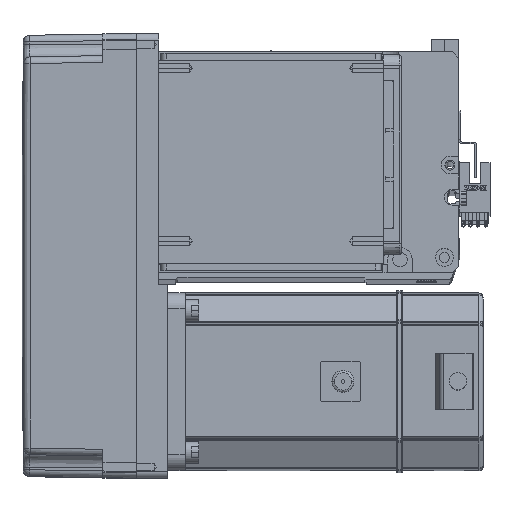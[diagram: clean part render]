
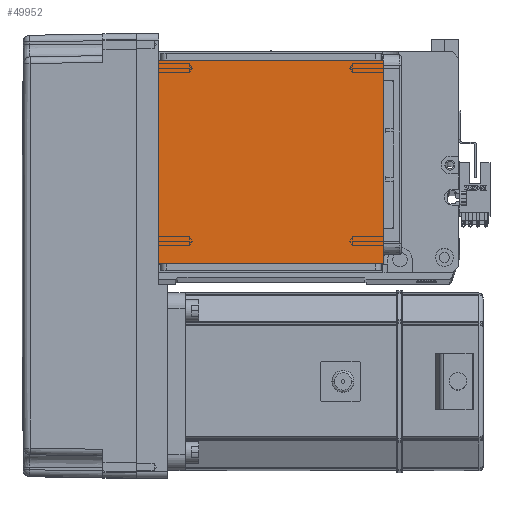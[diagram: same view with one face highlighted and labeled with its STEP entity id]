
A CAD part, top view. The second image highlights one B-rep face of the part: STEP entity #49952.
In plain terms, the highlighted planar face has unit normal (0, 0, 1).
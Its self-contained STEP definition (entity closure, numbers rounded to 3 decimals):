
#3182 = VECTOR ( 'NONE', #51552, 1000. ) ;
#3929 = DIRECTION ( 'NONE',  ( 1., 0., 0. ) ) ;
#4575 = VERTEX_POINT ( 'NONE', #12323 ) ;
#6457 = CARTESIAN_POINT ( 'NONE',  ( -70.004, 20., 115. ) ) ;
#6585 = VERTEX_POINT ( 'NONE', #22469 ) ;
#7623 = DIRECTION ( 'NONE',  ( 1., 0., 0. ) ) ;
#9311 = VECTOR ( 'NONE', #3929, 1000. ) ;
#9542 = CARTESIAN_POINT ( 'NONE',  ( 50.5, 122., 115. ) ) ;
#11776 = EDGE_LOOP ( 'NONE', ( #23385, #21560, #35095, #15926 ) ) ;
#12323 = CARTESIAN_POINT ( 'NONE',  ( -50.5, 111.5, 115. ) ) ;
#14384 = EDGE_CURVE ( 'NONE', #4575, #19197, #50811, .T. ) ;
#15926 = ORIENTED_EDGE ( 'NONE', *, *, #48775, .T. ) ;
#17229 = AXIS2_PLACEMENT_3D ( 'NONE', #48072, #47891, #7623 ) ;
#19197 = VERTEX_POINT ( 'NONE', #56604 ) ;
#21528 = VERTEX_POINT ( 'NONE', #34822 ) ;
#21556 = FACE_OUTER_BOUND ( 'NONE', #11776, .T. ) ;
#21560 = ORIENTED_EDGE ( 'NONE', *, *, #14384, .T. ) ;
#22469 = CARTESIAN_POINT ( 'NONE',  ( 50.5, 20., 115. ) ) ;
#23385 = ORIENTED_EDGE ( 'NONE', *, *, #55861, .F. ) ;
#26616 = LINE ( 'NONE', #6457, #52805 ) ;
#31111 = CARTESIAN_POINT ( 'NONE',  ( -70.004, 111.5, 115. ) ) ;
#32867 = EDGE_CURVE ( 'NONE', #6585, #19197, #26616, .T. ) ;
#34822 = CARTESIAN_POINT ( 'NONE',  ( 50.5, 111.5, 115. ) ) ;
#35095 = ORIENTED_EDGE ( 'NONE', *, *, #32867, .F. ) ;
#35149 = LINE ( 'NONE', #9542, #3182 ) ;
#35987 = CARTESIAN_POINT ( 'NONE',  ( -50.5, 122., 115. ) ) ;
#44711 = DIRECTION ( 'NONE',  ( 0., -1., 0. ) ) ;
#47727 = DIRECTION ( 'NONE',  ( -1., 0., 0. ) ) ;
#47891 = DIRECTION ( 'NONE',  ( 0., 0., 1. ) ) ;
#48072 = CARTESIAN_POINT ( 'NONE',  ( 0., 0., 115. ) ) ;
#48775 = EDGE_CURVE ( 'NONE', #6585, #21528, #35149, .T. ) ;
#49952 = ADVANCED_FACE ( 'NONE', ( #21556 ), #52402, .T. ) ;
#50811 = LINE ( 'NONE', #35987, #52922 ) ;
#51552 = DIRECTION ( 'NONE',  ( 0., 1., 0. ) ) ;
#52402 = PLANE ( 'NONE',  #17229 ) ;
#52805 = VECTOR ( 'NONE', #47727, 1000. ) ;
#52922 = VECTOR ( 'NONE', #44711, 1000. ) ;
#55861 = EDGE_CURVE ( 'NONE', #4575, #21528, #57577, .T. ) ;
#56604 = CARTESIAN_POINT ( 'NONE',  ( -50.5, 20., 115. ) ) ;
#57577 = LINE ( 'NONE', #31111, #9311 ) ;
